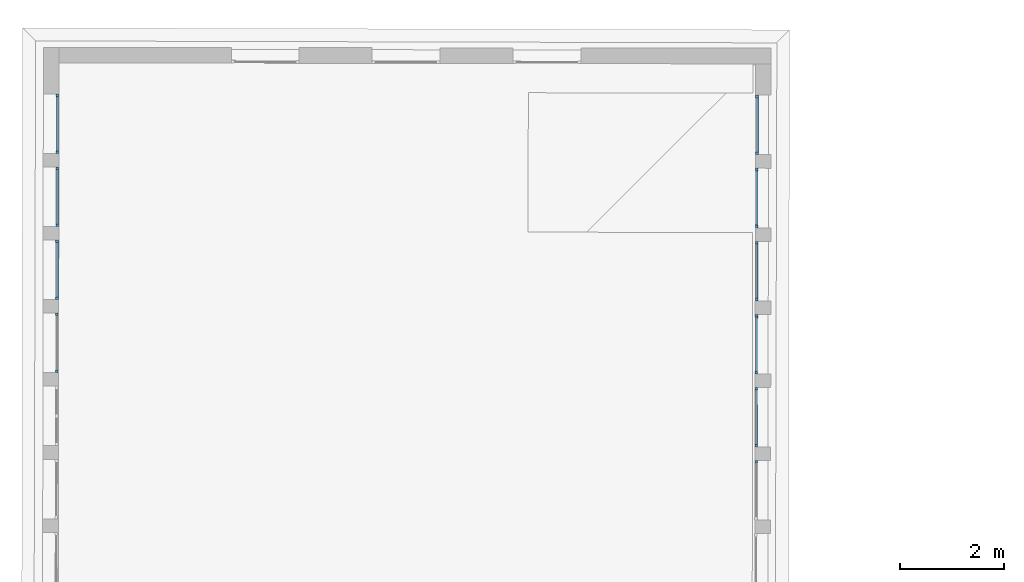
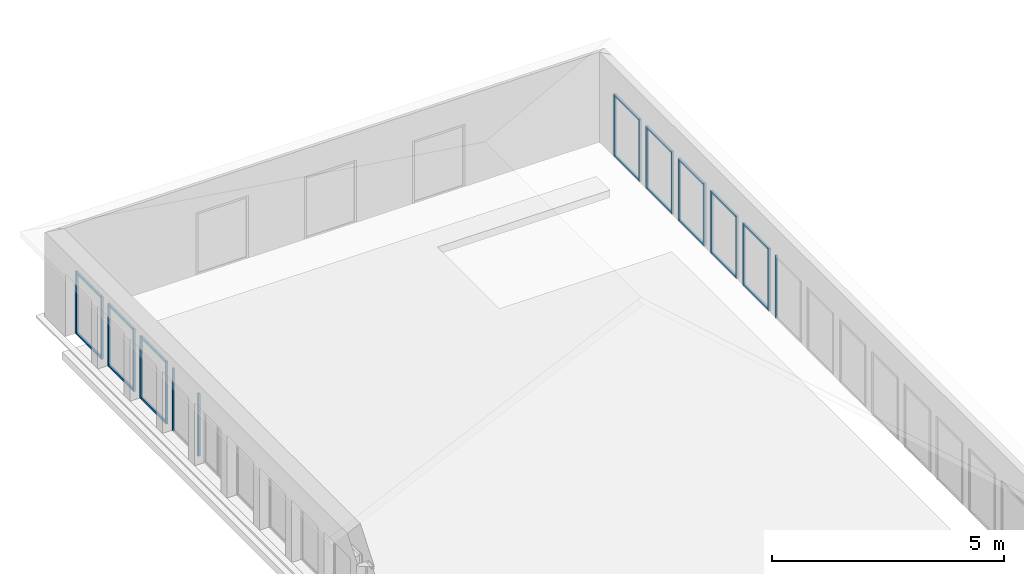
# One storey, part 8 of 26: 35 members, 10 elements without a shape of their own.
"""IFC2X3 building model written with IfcOpenShell, lengths in metres."""

from ifc_helpers import new_model, entity, si_unit, converted_unit, derived_unit, direction, frame, origin, origin_2d_with_axis, place, context, subcontext, project, spatial, rectangle, extrude, source, transform, mapped, material, type_object, type_shapes, element, aggregate, save


model = new_model("IFC2X3")

# Units and contexts
model_context = context("Model", 3, precision=1e-05, world=origin(), true_north=direction((6.123233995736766e-17, 1.0)))
body_context = subcontext(model_context, "Body", "Model", "MODEL_VIEW")
ifc_project = project(units=[si_unit("LENGTHUNIT", "METRE"), si_unit("AREAUNIT", "SQUARE_METRE"), converted_unit("PLANEANGLEUNIT", "DEGREE", entity("IfcPlaneAngleMeasure", 0.017453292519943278), si_unit("PLANEANGLEUNIT", "RADIAN"), dimensions=[0, 0, 0, 0, 0, 0, 0]), derived_unit("THERMALTRANSMITTANCEUNIT", [(si_unit("MASSUNIT", "GRAM", prefix="KILO"), 1), (si_unit("THERMODYNAMICTEMPERATUREUNIT", "KELVIN"), -1), (si_unit("TIMEUNIT", "SECOND"), -3)])], contexts=[model_context])

# Site, building, storey
site_placement = place(None, frame((1253.6752467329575, 2072.143113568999, 91.49999999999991), z_axis=(0.0, 0.0, 1.0), x_axis=(0.7237211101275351, 0.6900925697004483, 0.0)))
site = spatial("IfcSite", under=ifc_project, at=site_placement, Name="Surface", CompositionType="ELEMENT")
building_placement = place(site_placement, origin())
building = spatial("IfcBuilding", under=site, at=building_placement, CompositionType="ELEMENT")
storey_placement = place(building_placement, frame((0.0, 0.0, 7.0)))
storey = spatial("IfcBuildingStorey", under=building, at=storey_placement, Name="2-R+2", CompositionType="ELEMENT", Elevation=6.999999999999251)

# Curtain wall, member
curtain_wall_type = type_object("IfcCurtainWallType", Name="Mur-rideau:Menuiserie Ext 1F+1OB VERTIC", PredefinedType="NOTDEFINED")
curtain_wall_1_placement = place(storey_placement, frame((0.0, 0.0, -7.0)))
curtain_wall_1 = element("IfcCurtainWall", 1, at=curtain_wall_1_placement, inside=storey, type_object=curtain_wall_type, Name="Mur-rideau:Menuiserie Ext 1F+1OB VERTIC", ObjectType="Mur-rideau:Menuiserie Ext 1F+1OB VERTIC")
ifc_material = material(Name="OMD_Aluminium Men Ext")
member_type_1 = type_object("IfcMemberType", Name="Meneau rectangulaire:50x50", PredefinedType="MULLION", material=ifc_material)
shared_shape_1 = source(origin(), body_context, "Body", "SweptSolid", [
    extrude(rectangle(XDim=0.05, YDim=0.049999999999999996, at=origin_2d_with_axis()), frame((-0.025, 0.0, -1.039999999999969), z_axis=(0.0, 0.0, 1.0), x_axis=(-1.0, 0.0, 0.0)), (0.0, 0.0, 1.0), 1.0399999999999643),
])
type_shapes(member_type_1, [shared_shape_1])
member_1_placement = place(curtain_wall_1_placement, frame((165.77790136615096, 26.847969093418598, 9.55), z_axis=(0.6911544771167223, 0.7227070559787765, 0.0), x_axis=(0.0, 0.0, 1.0)))
member_1 = element("IfcMember", 2, at=member_1_placement, type_object=member_type_1, material=ifc_material, Name="Meneau rectangulaire:50x50", ObjectType="Meneau rectangulaire:50x50", context=body_context, shape_type="MappedRepresentation", body=[
    mapped(shared_shape_1, transform((0.0, 0.0, 0.0), scale=1.0)),
])

curtain_wall_2_placement = place(storey_placement, frame((0.0, 0.0, -7.0)))
curtain_wall_2 = element("IfcCurtainWall", 3, at=curtain_wall_2_placement, inside=storey, type_object=curtain_wall_type, Name="Mur-rideau:Menuiserie Ext 1F+1OB VERTIC", ObjectType="Mur-rideau:Menuiserie Ext 1F+1OB VERTIC")
member_2_placement = place(curtain_wall_2_placement, frame((164.8091358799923, 25.83727951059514, 9.55), z_axis=(0.6911544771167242, 0.7227070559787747, 0.0), x_axis=(0.0, 0.0, 1.0)))
member_2 = element("IfcMember", 4, at=member_2_placement, type_object=member_type_1, material=ifc_material, Name="Meneau rectangulaire:50x50", ObjectType="Meneau rectangulaire:50x50", context=body_context, shape_type="MappedRepresentation", body=[
    mapped(shared_shape_1, transform((0.0, 0.0, 0.0), scale=1.0)),
])

curtain_wall_3_placement = place(storey_placement, frame((0.0, 0.0, -7.0)))
curtain_wall_3 = element("IfcCurtainWall", 5, at=curtain_wall_3_placement, inside=storey, type_object=curtain_wall_type, Name="Mur-rideau:Menuiserie Ext 1F+1OB VERTIC", ObjectType="Mur-rideau:Menuiserie Ext 1F+1OB VERTIC")
member_3_placement = place(curtain_wall_3_placement, frame((163.84037039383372, 24.826589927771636, 9.55), z_axis=(0.6911544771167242, 0.7227070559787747, 0.0), x_axis=(0.0, 0.0, 1.0)))
member_3 = element("IfcMember", 6, at=member_3_placement, type_object=member_type_1, material=ifc_material, Name="Meneau rectangulaire:50x50", ObjectType="Meneau rectangulaire:50x50", context=body_context, shape_type="MappedRepresentation", body=[
    mapped(shared_shape_1, transform((0.0, 0.0, 0.0), scale=1.0)),
])

curtain_wall_4_placement = place(storey_placement, frame((0.0, 0.0, -7.0)))
curtain_wall_4 = element("IfcCurtainWall", 7, at=curtain_wall_4_placement, inside=storey, type_object=curtain_wall_type, Name="Mur-rideau:Menuiserie Ext 1F+1OB VERTIC", ObjectType="Mur-rideau:Menuiserie Ext 1F+1OB VERTIC")
member_4_placement = place(curtain_wall_4_placement, frame((175.45961079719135, 17.582048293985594, 9.55), z_axis=(0.6909838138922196, 0.7228702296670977, 0.0), x_axis=(0.0, 0.0, 1.0)))
member_4 = element("IfcMember", 8, at=member_4_placement, type_object=member_type_1, material=ifc_material, Name="Meneau rectangulaire:50x50", ObjectType="Meneau rectangulaire:50x50", context=body_context, shape_type="MappedRepresentation", body=[
    mapped(shared_shape_1, transform((0.0, 0.0, 0.0), scale=1.0)),
])

curtain_wall_5_placement = place(storey_placement, frame((0.0, 0.0, -7.0)))
curtain_wall_5 = element("IfcCurtainWall", 9, at=curtain_wall_5_placement, inside=storey, type_object=curtain_wall_type, Name="Mur-rideau:Menuiserie Ext 1F+1OB VERTIC", ObjectType="Mur-rideau:Menuiserie Ext 1F+1OB VERTIC")
member_5_placement = place(curtain_wall_5_placement, frame((174.49084531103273, 16.571358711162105, 9.55), z_axis=(0.6909838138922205, 0.7228702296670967, 0.0), x_axis=(0.0, 0.0, 1.0)))
member_5 = element("IfcMember", 10, at=member_5_placement, type_object=member_type_1, material=ifc_material, Name="Meneau rectangulaire:50x50", ObjectType="Meneau rectangulaire:50x50", context=body_context, shape_type="MappedRepresentation", body=[
    mapped(shared_shape_1, transform((0.0, 0.0, 0.0), scale=1.0)),
])

curtain_wall_6_placement = place(storey_placement, frame((0.0, 0.0, -7.0)))
curtain_wall_6 = element("IfcCurtainWall", 11, at=curtain_wall_6_placement, inside=storey, type_object=curtain_wall_type, Name="Mur-rideau:Menuiserie Ext 1F+1OB VERTIC", ObjectType="Mur-rideau:Menuiserie Ext 1F+1OB VERTIC")
member_6_placement = place(curtain_wall_6_placement, frame((173.52207982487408, 15.560669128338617, 9.55), z_axis=(0.6909838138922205, 0.7228702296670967, 0.0), x_axis=(0.0, 0.0, 1.0)))
member_6 = element("IfcMember", 12, at=member_6_placement, type_object=member_type_1, material=ifc_material, Name="Meneau rectangulaire:50x50", ObjectType="Meneau rectangulaire:50x50", context=body_context, shape_type="MappedRepresentation", body=[
    mapped(shared_shape_1, transform((0.0, 0.0, 0.0), scale=1.0)),
])

curtain_wall_7_placement = place(storey_placement, frame((0.0, 0.0, -7.0)))
curtain_wall_7 = element("IfcCurtainWall", 13, at=curtain_wall_7_placement, inside=storey, type_object=curtain_wall_type, Name="Mur-rideau:Menuiserie Ext 1F+1OB VERTIC", ObjectType="Mur-rideau:Menuiserie Ext 1F+1OB VERTIC")
member_7_placement = place(curtain_wall_7_placement, frame((172.55331433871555, 14.549979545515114, 9.55), z_axis=(0.6909838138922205, 0.7228702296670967, 0.0), x_axis=(0.0, 0.0, 1.0)))
member_7 = element("IfcMember", 14, at=member_7_placement, type_object=member_type_1, material=ifc_material, Name="Meneau rectangulaire:50x50", ObjectType="Meneau rectangulaire:50x50", context=body_context, shape_type="MappedRepresentation", body=[
    mapped(shared_shape_1, transform((0.0, 0.0, 0.0), scale=1.0)),
])

curtain_wall_8_placement = place(storey_placement, frame((0.0, 0.0, -7.0)))
curtain_wall_8 = element("IfcCurtainWall", 15, at=curtain_wall_8_placement, inside=storey, type_object=curtain_wall_type, Name="Mur-rideau:Menuiserie Ext 1F+1OB VERTIC", ObjectType="Mur-rideau:Menuiserie Ext 1F+1OB VERTIC")
member_8_placement = place(curtain_wall_8_placement, frame((171.58454885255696, 13.539289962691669, 9.55), z_axis=(0.6909838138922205, 0.7228702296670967, 0.0), x_axis=(0.0, 0.0, 1.0)))
member_8 = element("IfcMember", 16, at=member_8_placement, type_object=member_type_1, material=ifc_material, Name="Meneau rectangulaire:50x50", ObjectType="Meneau rectangulaire:50x50", context=body_context, shape_type="MappedRepresentation", body=[
    mapped(shared_shape_1, transform((0.0, 0.0, 0.0), scale=1.0)),
])

# Member
member_type_2 = type_object("IfcMemberType", Name="Meneau rectangulaire:50x50", PredefinedType="MULLION", material=ifc_material)
shared_shape_2 = source(origin(), body_context, "Body", "SweptSolid", [
    extrude(rectangle(XDim=0.05, YDim=0.05, at=origin_2d_with_axis()), frame((-0.025, 0.0, -1.0399999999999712), z_axis=(0.0, 0.0, 1.0), x_axis=(-1.0, 0.0, 0.0)), (0.0, 0.0, 1.0), 1.0399999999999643),
])
type_shapes(member_type_2, [shared_shape_2])
member_9_placement = place(curtain_wall_1_placement, frame((165.05910070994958, 26.09635375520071, 7.9), z_axis=(-0.6911544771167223, -0.7227070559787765, 0.0), x_axis=(0.0, 0.0, -1.0)))
member_9 = element("IfcMember", 17, at=member_9_placement, type_object=member_type_2, material=ifc_material, Name="Meneau rectangulaire:50x50", ObjectType="Meneau rectangulaire:50x50", context=body_context, shape_type="MappedRepresentation", body=[
    mapped(shared_shape_2, transform((0.0, 0.0, 0.0), scale=1.0)),
])

member_10_placement = place(curtain_wall_2_placement, frame((164.090335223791, 25.085664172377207, 7.9), z_axis=(-0.6911544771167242, -0.7227070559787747, 0.0), x_axis=(0.0, 0.0, -1.0)))
member_10 = element("IfcMember", 18, at=member_10_placement, type_object=member_type_2, material=ifc_material, Name="Meneau rectangulaire:50x50", ObjectType="Meneau rectangulaire:50x50", context=body_context, shape_type="MappedRepresentation", body=[
    mapped(shared_shape_2, transform((0.0, 0.0, 0.0), scale=1.0)),
])

member_11_placement = place(curtain_wall_3_placement, frame((163.12156973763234, 24.074974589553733, 7.9), z_axis=(-0.6911544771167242, -0.7227070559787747, 0.0), x_axis=(0.0, 0.0, -1.0)))
member_11 = element("IfcMember", 19, at=member_11_placement, type_object=member_type_2, material=ifc_material, Name="Meneau rectangulaire:50x50", ObjectType="Meneau rectangulaire:50x50", context=body_context, shape_type="MappedRepresentation", body=[
    mapped(shared_shape_2, transform((0.0, 0.0, 0.0), scale=1.0)),
])

member_12_placement = place(curtain_wall_4_placement, frame((174.74098763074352, 16.83026325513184, 7.9), z_axis=(-0.6909838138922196, -0.7228702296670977, 0.0), x_axis=(0.0, 0.0, -1.0)))
member_12 = element("IfcMember", 20, at=member_12_placement, type_object=member_type_2, material=ifc_material, Name="Meneau rectangulaire:50x50", ObjectType="Meneau rectangulaire:50x50", context=body_context, shape_type="MappedRepresentation", body=[
    mapped(shared_shape_2, transform((0.0, 0.0, 0.0), scale=1.0)),
])

member_13_placement = place(curtain_wall_5_placement, frame((173.77222214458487, 15.819573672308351, 7.9), z_axis=(-0.6909838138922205, -0.7228702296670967, 0.0), x_axis=(0.0, 0.0, -1.0)))
member_13 = element("IfcMember", 21, at=member_13_placement, type_object=member_type_2, material=ifc_material, Name="Meneau rectangulaire:50x50", ObjectType="Meneau rectangulaire:50x50", context=body_context, shape_type="MappedRepresentation", body=[
    mapped(shared_shape_2, transform((0.0, 0.0, 0.0), scale=1.0)),
])

member_14_placement = place(curtain_wall_6_placement, frame((172.80345665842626, 14.808884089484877, 7.9), z_axis=(-0.6909838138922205, -0.7228702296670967, 0.0), x_axis=(0.0, 0.0, -1.0)))
member_14 = element("IfcMember", 22, at=member_14_placement, type_object=member_type_2, material=ifc_material, Name="Meneau rectangulaire:50x50", ObjectType="Meneau rectangulaire:50x50", context=body_context, shape_type="MappedRepresentation", body=[
    mapped(shared_shape_2, transform((0.0, 0.0, 0.0), scale=1.0)),
])

member_15_placement = place(curtain_wall_7_placement, frame((171.8346911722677, 13.798194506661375, 7.9), z_axis=(-0.6909838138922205, -0.7228702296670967, 0.0), x_axis=(0.0, 0.0, -1.0)))
member_15 = element("IfcMember", 23, at=member_15_placement, type_object=member_type_2, material=ifc_material, Name="Meneau rectangulaire:50x50", ObjectType="Meneau rectangulaire:50x50", context=body_context, shape_type="MappedRepresentation", body=[
    mapped(shared_shape_2, transform((0.0, 0.0, 0.0), scale=1.0)),
])

member_16_placement = place(curtain_wall_8_placement, frame((170.86592568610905, 12.7875049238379, 7.9), z_axis=(-0.6909838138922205, -0.7228702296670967, 0.0), x_axis=(0.0, 0.0, -1.0)))
member_16 = element("IfcMember", 24, at=member_16_placement, type_object=member_type_2, material=ifc_material, Name="Meneau rectangulaire:50x50", ObjectType="Meneau rectangulaire:50x50", context=body_context, shape_type="MappedRepresentation", body=[
    mapped(shared_shape_2, transform((0.0, 0.0, 0.0), scale=1.0)),
])

member_type_3 = type_object("IfcMemberType", Name="Meneau rectangulaire:50x50", PredefinedType="MULLION", material=ifc_material)
shared_shape_3 = source(origin(), body_context, "Body", "SweptSolid", [
    extrude(rectangle(XDim=0.05, YDim=0.05, at=origin_2d_with_axis()), frame((-0.025, 0.0, -1.6499999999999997), z_axis=(0.0, 0.0, 1.0), x_axis=(-1.0, 0.0, 0.0)), (0.0, 0.0, 1.0), 1.6499999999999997),
])
type_shapes(member_type_3, [shared_shape_3])
member_17_placement = place(curtain_wall_1_placement, frame((165.81245909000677, 26.88410444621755, 7.9), z_axis=(0.0, 0.0, -1.0), x_axis=(0.6911544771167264, 0.7227070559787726, 0.0)))
member_17 = element("IfcMember", 25, at=member_17_placement, type_object=member_type_3, material=ifc_material, Name="Meneau rectangulaire:50x50", ObjectType="Meneau rectangulaire:50x50", context=body_context, shape_type="MappedRepresentation", body=[
    mapped(shared_shape_3, transform((0.0, 0.0, 0.0), scale=1.0)),
])

member_18_placement = place(curtain_wall_2_placement, frame((164.84369360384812, 25.873414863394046, 7.9), z_axis=(0.0, 0.0, -1.0), x_axis=(0.6911544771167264, 0.7227070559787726, 0.0)))
member_18 = element("IfcMember", 26, at=member_18_placement, type_object=member_type_3, material=ifc_material, Name="Meneau rectangulaire:50x50", ObjectType="Meneau rectangulaire:50x50", context=body_context, shape_type="MappedRepresentation", body=[
    mapped(shared_shape_3, transform((0.0, 0.0, 0.0), scale=1.0)),
])

member_19_placement = place(curtain_wall_3_placement, frame((163.8749281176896, 24.862725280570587, 7.9), z_axis=(0.0, 0.0, -1.0), x_axis=(0.6911544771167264, 0.7227070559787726, 0.0)))
member_19 = element("IfcMember", 27, at=member_19_placement, type_object=member_type_3, material=ifc_material, Name="Meneau rectangulaire:50x50", ObjectType="Meneau rectangulaire:50x50", context=body_context, shape_type="MappedRepresentation", body=[
    mapped(shared_shape_3, transform((0.0, 0.0, 0.0), scale=1.0)),
])

# Curtain wall, member
curtain_wall_9_placement = place(storey_placement, frame((0.0, 0.0, -7.0)))
curtain_wall_9 = element("IfcCurtainWall", 28, at=curtain_wall_9_placement, inside=storey, type_object=curtain_wall_type, Name="Mur-rideau:Menuiserie Ext 1F+1OB VERTIC", ObjectType="Mur-rideau:Menuiserie Ext 1F+1OB VERTIC")
member_20_placement = place(curtain_wall_9_placement, frame((162.90616263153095, 23.852035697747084, 7.9), z_axis=(0.0, 0.0, -1.0), x_axis=(0.6911544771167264, 0.7227070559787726, 0.0)))
member_20 = element("IfcMember", 29, at=member_20_placement, type_object=member_type_3, material=ifc_material, Name="Meneau rectangulaire:50x50", ObjectType="Meneau rectangulaire:50x50", context=body_context, shape_type="MappedRepresentation", body=[
    mapped(shared_shape_3, transform((0.0, 0.0, 0.0), scale=1.0)),
])

# Member
member_21_placement = place(curtain_wall_4_placement, frame((175.49415998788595, 17.61819180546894, 7.9), z_axis=(0.0, 0.0, -1.0), x_axis=(0.6909838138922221, 0.7228702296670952, 0.0)))
member_21 = element("IfcMember", 30, at=member_21_placement, type_object=member_type_3, material=ifc_material, Name="Meneau rectangulaire:50x50", ObjectType="Meneau rectangulaire:50x50", context=body_context, shape_type="MappedRepresentation", body=[
    mapped(shared_shape_3, transform((0.0, 0.0, 0.0), scale=1.0)),
])

member_22_placement = place(curtain_wall_5_placement, frame((174.52539450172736, 16.60750222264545, 7.9), z_axis=(0.0, 0.0, -1.0), x_axis=(0.6909838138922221, 0.7228702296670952, 0.0)))
member_22 = element("IfcMember", 31, at=member_22_placement, type_object=member_type_3, material=ifc_material, Name="Meneau rectangulaire:50x50", ObjectType="Meneau rectangulaire:50x50", context=body_context, shape_type="MappedRepresentation", body=[
    mapped(shared_shape_3, transform((0.0, 0.0, 0.0), scale=1.0)),
])

member_23_placement = place(curtain_wall_6_placement, frame((173.55662901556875, 15.59681263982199, 7.9), z_axis=(0.0, 0.0, -1.0), x_axis=(0.6909838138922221, 0.7228702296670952, 0.0)))
member_23 = element("IfcMember", 32, at=member_23_placement, type_object=member_type_3, material=ifc_material, Name="Meneau rectangulaire:50x50", ObjectType="Meneau rectangulaire:50x50", context=body_context, shape_type="MappedRepresentation", body=[
    mapped(shared_shape_3, transform((0.0, 0.0, 0.0), scale=1.0)),
])

member_24_placement = place(curtain_wall_7_placement, frame((172.58786352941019, 14.586123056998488, 7.9), z_axis=(0.0, 0.0, -1.0), x_axis=(0.6909838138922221, 0.7228702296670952, 0.0)))
member_24 = element("IfcMember", 33, at=member_24_placement, type_object=member_type_3, material=ifc_material, Name="Meneau rectangulaire:50x50", ObjectType="Meneau rectangulaire:50x50", context=body_context, shape_type="MappedRepresentation", body=[
    mapped(shared_shape_3, transform((0.0, 0.0, 0.0), scale=1.0)),
])

member_25_placement = place(curtain_wall_8_placement, frame((171.61909804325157, 13.575433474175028, 7.9), z_axis=(0.0, 0.0, -1.0), x_axis=(0.6909838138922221, 0.7228702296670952, 0.0)))
member_25 = element("IfcMember", 34, at=member_25_placement, type_object=member_type_3, material=ifc_material, Name="Meneau rectangulaire:50x50", ObjectType="Meneau rectangulaire:50x50", context=body_context, shape_type="MappedRepresentation", body=[
    mapped(shared_shape_3, transform((0.0, 0.0, 0.0), scale=1.0)),
])

# Curtain wall, member
curtain_wall_10_placement = place(storey_placement, frame((0.0, 0.0, -7.0)))
curtain_wall_10 = element("IfcCurtainWall", 35, at=curtain_wall_10_placement, inside=storey, type_object=curtain_wall_type, Name="Mur-rideau:Menuiserie Ext 1F+1OB VERTIC", ObjectType="Mur-rideau:Menuiserie Ext 1F+1OB VERTIC")
member_26_placement = place(curtain_wall_10_placement, frame((170.65033255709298, 12.564743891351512, 7.9), z_axis=(0.0, 0.0, -1.0), x_axis=(0.6909838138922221, 0.7228702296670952, 0.0)))
member_26 = element("IfcMember", 36, at=member_26_placement, type_object=member_type_3, material=ifc_material, Name="Meneau rectangulaire:50x50", ObjectType="Meneau rectangulaire:50x50", context=body_context, shape_type="MappedRepresentation", body=[
    mapped(shared_shape_3, transform((0.0, 0.0, 0.0), scale=1.0)),
])
aggregate(curtain_wall_10, [member_26])

# Member
member_type_4 = type_object("IfcMemberType", Name="Meneau rectangulaire:50x50", PredefinedType="MULLION", material=ifc_material)
shared_shape_4 = source(origin(), body_context, "Body", "SweptSolid", [
    extrude(rectangle(XDim=0.05, YDim=0.05000000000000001, at=origin_2d_with_axis()), frame((-0.025, 0.0, -1.6499999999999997), z_axis=(0.0, 0.0, 1.0), x_axis=(-1.0, 0.0, 0.0)), (0.0, 0.0, 1.0), 1.6499999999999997),
])
type_shapes(member_type_4, [shared_shape_4])
member_27_placement = place(curtain_wall_1_placement, frame((165.0245429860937, 26.06021840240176, 9.55), z_axis=(0.0, 0.0, 1.0), x_axis=(-0.6911544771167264, -0.7227070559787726, 0.0)))
member_27 = element("IfcMember", 37, at=member_27_placement, type_object=member_type_4, material=ifc_material, Name="Meneau rectangulaire:50x50", ObjectType="Meneau rectangulaire:50x50", context=body_context, shape_type="MappedRepresentation", body=[
    mapped(shared_shape_4, transform((0.0, 0.0, 0.0), scale=1.0)),
])

aggregate(curtain_wall_1, [member_1, member_9, member_17, member_27])

member_28_placement = place(curtain_wall_2_placement, frame((164.05577749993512, 25.0495288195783, 9.55), z_axis=(0.0, 0.0, 1.0), x_axis=(-0.6911544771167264, -0.7227070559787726, 0.0)))
member_28 = element("IfcMember", 38, at=member_28_placement, type_object=member_type_4, material=ifc_material, Name="Meneau rectangulaire:50x50", ObjectType="Meneau rectangulaire:50x50", context=body_context, shape_type="MappedRepresentation", body=[
    mapped(shared_shape_4, transform((0.0, 0.0, 0.0), scale=1.0)),
])

aggregate(curtain_wall_2, [member_2, member_10, member_18, member_28])

member_29_placement = place(curtain_wall_3_placement, frame((163.08701201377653, 24.038839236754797, 9.55), z_axis=(0.0, 0.0, 1.0), x_axis=(-0.6911544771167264, -0.7227070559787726, 0.0)))
member_29 = element("IfcMember", 39, at=member_29_placement, type_object=member_type_4, material=ifc_material, Name="Meneau rectangulaire:50x50", ObjectType="Meneau rectangulaire:50x50", context=body_context, shape_type="MappedRepresentation", body=[
    mapped(shared_shape_4, transform((0.0, 0.0, 0.0), scale=1.0)),
])

aggregate(curtain_wall_3, [member_3, member_11, member_19, member_29])

member_30_placement = place(curtain_wall_9_placement, frame((162.1182465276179, 23.028149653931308, 9.55), z_axis=(0.0, 0.0, 1.0), x_axis=(-0.6911544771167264, -0.7227070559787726, 0.0)))
member_30 = element("IfcMember", 40, at=member_30_placement, type_object=member_type_4, material=ifc_material, Name="Meneau rectangulaire:50x50", ObjectType="Meneau rectangulaire:50x50", context=body_context, shape_type="MappedRepresentation", body=[
    mapped(shared_shape_4, transform((0.0, 0.0, 0.0), scale=1.0)),
])

aggregate(curtain_wall_9, [member_20, member_30])

member_31_placement = place(curtain_wall_4_placement, frame((174.70643844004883, 16.79411974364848, 9.55), z_axis=(0.0, 0.0, 1.0), x_axis=(-0.6909838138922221, -0.7228702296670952, 0.0)))
member_31 = element("IfcMember", 41, at=member_31_placement, type_object=member_type_4, material=ifc_material, Name="Meneau rectangulaire:50x50", ObjectType="Meneau rectangulaire:50x50", context=body_context, shape_type="MappedRepresentation", body=[
    mapped(shared_shape_4, transform((0.0, 0.0, 0.0), scale=1.0)),
])

aggregate(curtain_wall_4, [member_4, member_12, member_21, member_31])

member_32_placement = place(curtain_wall_5_placement, frame((173.73767295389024, 15.783430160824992, 9.55), z_axis=(0.0, 0.0, 1.0), x_axis=(-0.6909838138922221, -0.7228702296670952, 0.0)))
member_32 = element("IfcMember", 42, at=member_32_placement, type_object=member_type_4, material=ifc_material, Name="Meneau rectangulaire:50x50", ObjectType="Meneau rectangulaire:50x50", context=body_context, shape_type="MappedRepresentation", body=[
    mapped(shared_shape_4, transform((0.0, 0.0, 0.0), scale=1.0)),
])

aggregate(curtain_wall_5, [member_5, member_13, member_22, member_32])

member_33_placement = place(curtain_wall_6_placement, frame((172.76890746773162, 14.772740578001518, 9.55), z_axis=(0.0, 0.0, 1.0), x_axis=(-0.6909838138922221, -0.7228702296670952, 0.0)))
member_33 = element("IfcMember", 43, at=member_33_placement, type_object=member_type_4, material=ifc_material, Name="Meneau rectangulaire:50x50", ObjectType="Meneau rectangulaire:50x50", context=body_context, shape_type="MappedRepresentation", body=[
    mapped(shared_shape_4, transform((0.0, 0.0, 0.0), scale=1.0)),
])

aggregate(curtain_wall_6, [member_6, member_14, member_23, member_33])

member_34_placement = place(curtain_wall_7_placement, frame((171.80014198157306, 13.762050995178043, 9.55), z_axis=(0.0, 0.0, 1.0), x_axis=(-0.6909838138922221, -0.7228702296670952, 0.0)))
member_34 = element("IfcMember", 44, at=member_34_placement, type_object=member_type_4, material=ifc_material, Name="Meneau rectangulaire:50x50", ObjectType="Meneau rectangulaire:50x50", context=body_context, shape_type="MappedRepresentation", body=[
    mapped(shared_shape_4, transform((0.0, 0.0, 0.0), scale=1.0)),
])

aggregate(curtain_wall_7, [member_7, member_15, member_24, member_34])

member_35_placement = place(curtain_wall_8_placement, frame((170.83137649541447, 12.751361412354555, 9.55), z_axis=(0.0, 0.0, 1.0), x_axis=(-0.6909838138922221, -0.7228702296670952, 0.0)))
member_35 = element("IfcMember", 45, at=member_35_placement, type_object=member_type_4, material=ifc_material, Name="Meneau rectangulaire:50x50", ObjectType="Meneau rectangulaire:50x50", context=body_context, shape_type="MappedRepresentation", body=[
    mapped(shared_shape_4, transform((0.0, 0.0, 0.0), scale=1.0)),
])

aggregate(curtain_wall_8, [member_8, member_16, member_25, member_35])

save(model, "model.ifc")
